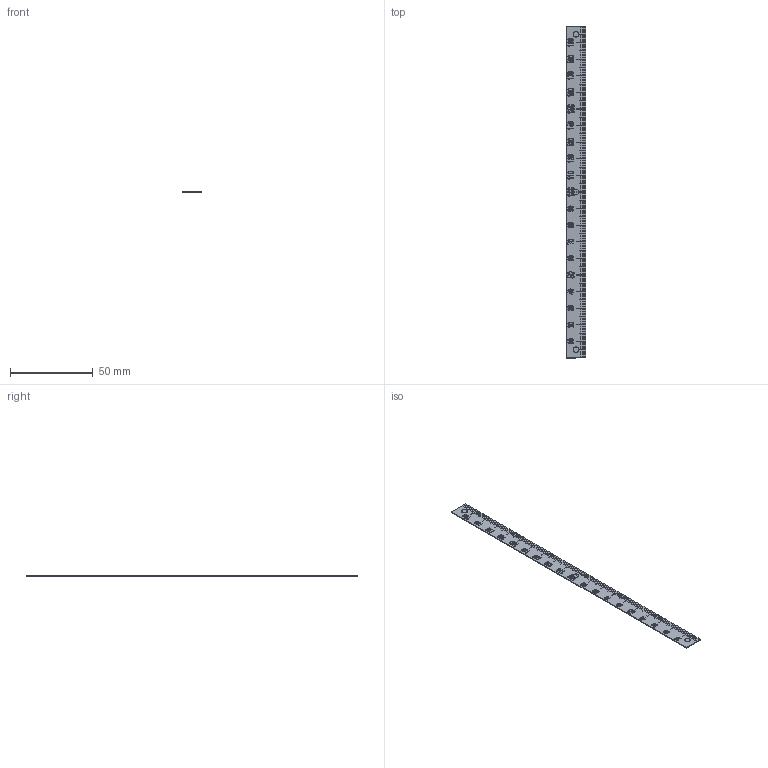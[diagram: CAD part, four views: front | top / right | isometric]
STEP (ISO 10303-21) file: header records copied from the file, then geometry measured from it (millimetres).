
FILE_DESCRIPTION (( 'STEP AP203' ), '1' );
FILE_NAME ('es1n-d200r.STEP', '2023-06-15T07:05:27', ( '' ), ( '' ), 'SwSTEP 2.0', 'SolidWorks 2021', '' );
FILE_SCHEMA (( 'CONFIG_CONTROL_DESIGN' ));
Products named in the file (1): es1n-d200r
Bounding box: 12 x 200 x 0.5 mm (x, y, z)
Volume: 1198.4 mm3; surface area: 5031.9 mm2
Topology: 1 solids, 1 shells, 1649 faces, 4692 edges, 3128 vertices
Faces by surface type: plane 1043, bspline 592, cylinder 14
Entity records: 75859 total; most frequent: CARTESIAN_POINT 36902, ORIENTED_EDGE 9384, DIRECTION 5652, EDGE_CURVE 4692, VECTOR 3480, LINE 3480, VERTEX_POINT 3128, EDGE_LOOP 1732
